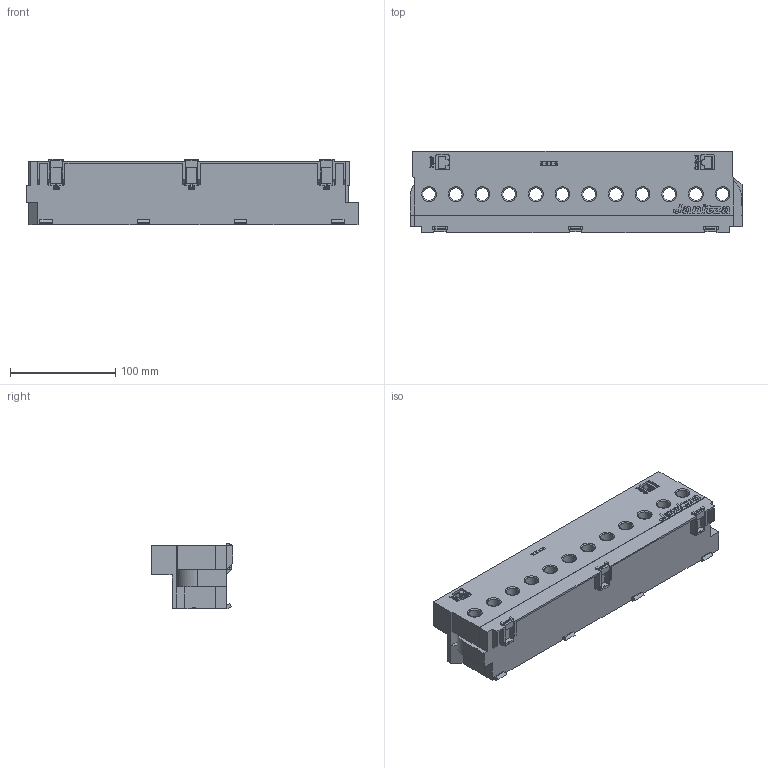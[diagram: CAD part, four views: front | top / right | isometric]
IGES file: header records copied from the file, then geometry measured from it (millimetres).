
Global section: file name: 800-CT12-SVD-US; native system: Autodesk Inventor 2021; preprocessor: unknown; date: 20250221.120538; units: millimetre
Bounding box: 316 x 77.5 x 62 mm (x, y, z)
Volume: 1024848.1 mm3; surface area: 132441.6 mm2
Topology: 16 solids, 16 shells, 920 faces, 2491 edges, 1665 vertices
Faces by surface type: bspline 920
